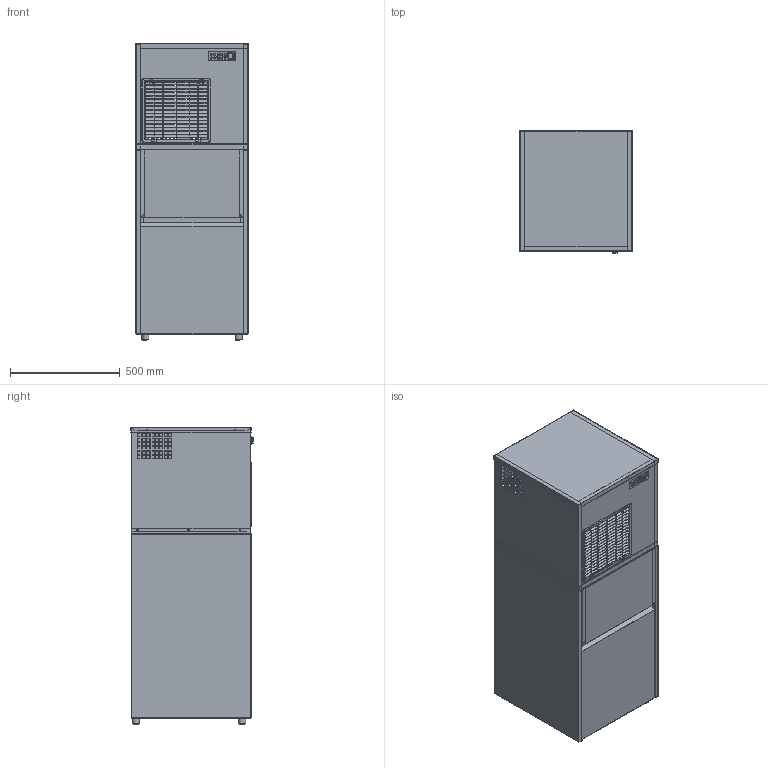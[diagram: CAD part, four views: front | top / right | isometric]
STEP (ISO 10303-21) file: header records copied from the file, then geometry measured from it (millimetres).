
FILE_DESCRIPTION(/* description */ ('Unknown'),/* implementation_level */ '2;1');
FILE_NAME(/* name */ 'CAD-048',/* time_stamp */ '2021-06-16T16:59:32+02:00',/* author */ ('Unknown'),/* organization */ ('Unknown'),/* preprocessor_version */ 'ST-DEVELOPER v16.7',/* originating_system */ 'Solid Edge',/* authorisation */ 'Unknown');
FILE_SCHEMA (('CONFIG_CONTROL_DESIGN'));
Products named in the file (25): IQ-135; silo_s60_oa_0; 1-4+1696; puerta dp60; 24-62+2108; 24-62+2109; 24-65+2120; guias dp60; 24-64+2116; IQ 150-200 R290_oa_1; 24-331+5456U_oa_2; 24-330+1915U_R02; 24-19+1916; 24-227+6646; 24-343+1927U; 24-345+1949U_R01; 24-344+1928U; 24-342+2465U; Cuadro_IQ150-200_monof_R290_oa_3; 24-223; 1458+piloto led ambar 220V UL; 1457+piloto led rojo 220V UL; 2287+interruptor; 28-143+6084; 2-131
Assembly tree (27 placements, depth 4):
  IQ-135
    silo_s60_oa_0
      1-4+1696
      puerta dp60
      24-62+2108
      24-62+2109
      24-65+2120
      guias dp60
      24-64+2116
    IQ 150-200 R290_oa_1
      24-331+5456U_oa_2
        24-330+1915U_R02
      24-19+1916
      24-227+6646
      24-343+1927U
      24-345+1949U_R01
      24-344+1928U
      24-342+2465U
      Cuadro_IQ150-200_monof_R290_oa_3
        24-223
        1458+piloto led ambar 220V UL
        1457+piloto led rojo 220V UL
        2287+interruptor
      28-143+6084
    2-131  x4
Bounding box: 515.2 x 556.9 x 1355.11 mm (x, y, z)
Volume: 6390209.4 mm3; surface area: 8507188.8 mm2
Topology: 24 solids, 25 shells, 3845 faces, 11185 edges, 7300 vertices
Faces by surface type: plane 2766, cylinder 971, bspline 64, sphere 20, cone 20, torus 4
Full cylindrical faces by diameter (mm): 1 x35, 1.5 x4, 2.7 x36, 3.25 x7, 3.5 x9, 4 x26, 4.25 x49, 5 x18, 6 x40, 6.25 x2, 7 x12, 8 x2, 8.8 x2, 9 x5, 9.9 x2, 12 x2, 15 x2, 20.9 x4, 22 x1, 30 x2, 32.7 x4, 50 x2
Entity records: 130801 total; most frequent: CARTESIAN_POINT 23949, ORIENTED_EDGE 21426, DIRECTION 20075, EDGE_CURVE 10713, LINE 8311, VECTOR 8311, VERTEX_POINT 7134, AXIS2_PLACEMENT_3D 5882
